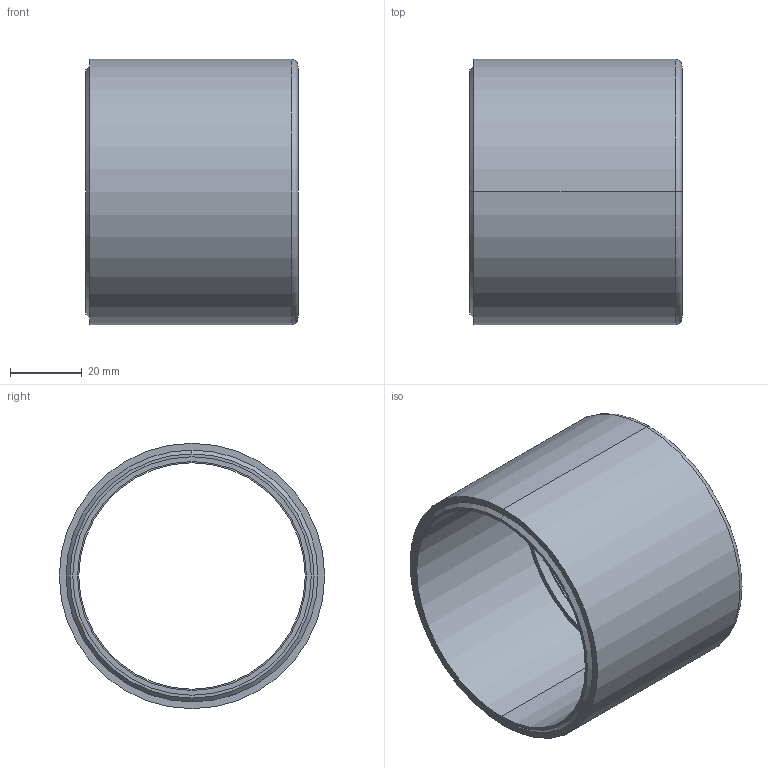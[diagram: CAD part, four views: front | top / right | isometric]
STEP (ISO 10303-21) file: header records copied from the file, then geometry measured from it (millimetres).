
FILE_DESCRIPTION (( 'STEP AP214' ), '1' );
FILE_NAME ('CR-INFV-17-18.STEP', '2020-12-10T17:01:17', ( '' ), ( '' ), 'SwSTEP 2.0', 'SolidWorks 2019', '' );
FILE_SCHEMA (( 'AUTOMOTIVE_DESIGN' ));
Length unit declared in the file: inch
Products named in the file (1): CR-INFV-17-18
Bounding box: 59.1 x 73.91 x 73.91 mm (x, y, z)
Volume: 53383.1 mm3; surface area: 27878.3 mm2
Topology: 1 solids, 1 shells, 20 faces, 40 edges, 26 vertices
Faces by surface type: cylinder 10, plane 6, cone 2, torus 2
Entity records: 840 total; most frequent: DIRECTION 110, CARTESIAN_POINT 87, ORIENTED_EDGE 80, AXIS2_PLACEMENT_3D 49, EDGE_CURVE 40, CIRCLE 28, VERTEX_POINT 26, EDGE_LOOP 26
